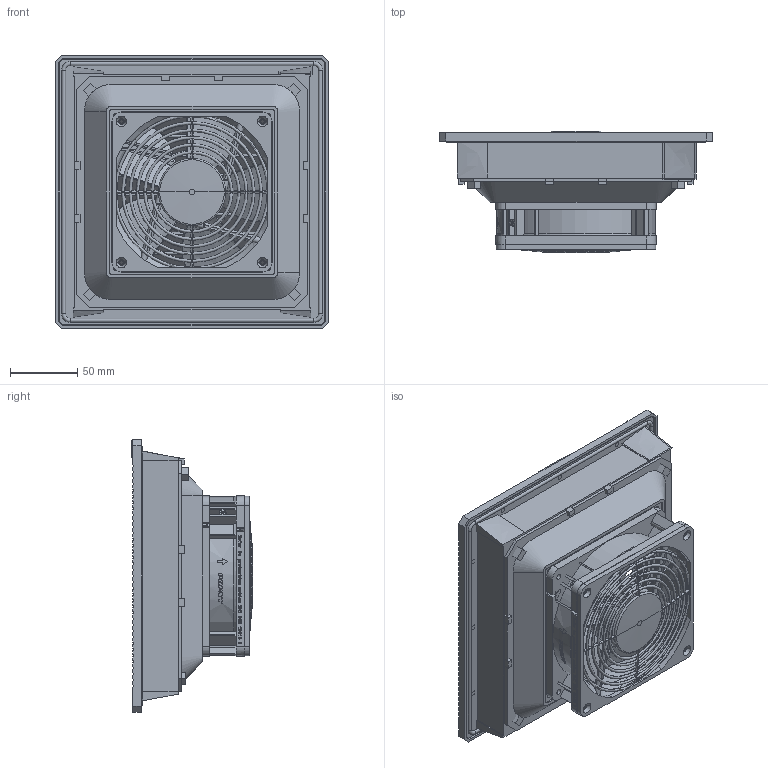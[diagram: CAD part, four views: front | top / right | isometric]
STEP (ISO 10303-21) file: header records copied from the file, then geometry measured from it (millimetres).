
FILE_DESCRIPTION (( 'STEP AP214' ), '1' );
FILE_NAME ('PF 32000_DC_AP214.STEP', '2019-05-28T14:11:32', ( '' ), ( '' ), 'SwSTEP 2.0', 'SolidWorks 2017', '' );
FILE_SCHEMA (( 'AUTOMOTIVE_DESIGN' ));
Length unit declared in the file: millimetre
Products named in the file (7): safty guard PF2x_PF3x; Axiallüfter Serie 4300N DC; flow in nozzel PF3x; 30162-013; cover PF3x; housing PF3x; PF 32000_DC_AP214
Assembly tree (6 placements, depth 2):
  PF 32000_DC_AP214
    housing PF3x
    cover PF3x
    30162-013
    flow in nozzel PF3x
    Axiallüfter Serie 4300N DC
    safty guard PF2x_PF3x
Bounding box: 202.5 x 90.44 x 202.5 mm (x, y, z)
Volume: 284824.4 mm3; surface area: 374152.1 mm2
Topology: 6 solids, 8 shells, 3050 faces, 8590 edges, 5597 vertices
Faces by surface type: plane 1940, cylinder 604, bspline 363, torus 91, cone 52
Entity records: 148588 total; most frequent: CARTESIAN_POINT 57149, ORIENTED_EDGE 17134, DIRECTION 13336, EDGE_CURVE 8573, VECTOR 5716, LINE 5716, VERTEX_POINT 5597, AXIS2_PLACEMENT_3D 3810
